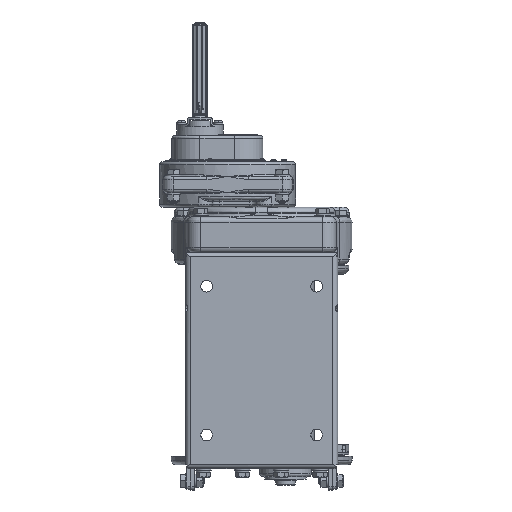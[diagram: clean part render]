
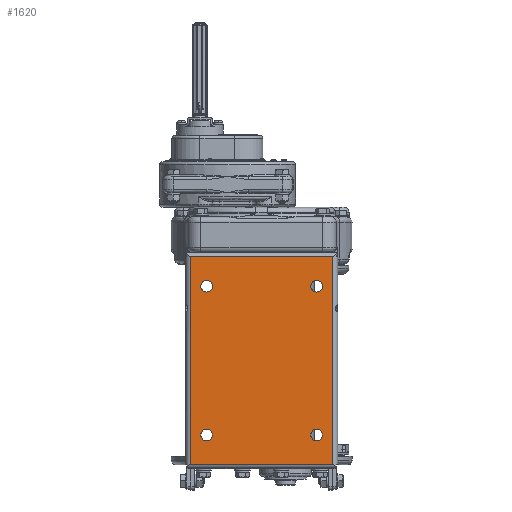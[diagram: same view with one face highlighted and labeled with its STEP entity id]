
A CAD part, front view. The second image highlights one B-rep face of the part: STEP entity #1620.
In plain terms, the highlighted planar face has unit normal (0, -1, 0).
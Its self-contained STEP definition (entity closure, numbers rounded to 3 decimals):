
#1620=ADVANCED_FACE('',(#18517,#18518,#18519,#18520,#18521),#18516,.F.);
#18516=PLANE('',#49552);
#18517=FACE_OUTER_BOUND('',#49553,.T.);
#18518=FACE_BOUND('',#49554,.T.);
#18519=FACE_BOUND('',#49555,.T.);
#18520=FACE_BOUND('',#49556,.T.);
#18521=FACE_BOUND('',#49557,.T.);
#49549=CARTESIAN_POINT('',(-171.432,-278.182,-566.035));
#49550=DIRECTION('',(0.,1.,0.));
#49551=DIRECTION('',(1.,0.,0.));
#49552=AXIS2_PLACEMENT_3D('',#49549,#49550,#49551);
#49553=EDGE_LOOP('',(#69118,#69119,#69120,#69121));
#49554=EDGE_LOOP('',(#69122,#69123,#69124));
#49555=EDGE_LOOP('',(#69125,#69126,#69127));
#49556=EDGE_LOOP('',(#69128,#69129,#69130));
#49557=EDGE_LOOP('',(#69131,#69132,#69133));
#69118=ORIENTED_EDGE('',*,*,#80922,.T.);
#69119=ORIENTED_EDGE('',*,*,#82506,.T.);
#69120=ORIENTED_EDGE('',*,*,#80909,.F.);
#69121=ORIENTED_EDGE('',*,*,#82507,.F.);
#69122=ORIENTED_EDGE('',*,*,#82508,.T.);
#69123=ORIENTED_EDGE('',*,*,#82509,.T.);
#69124=ORIENTED_EDGE('',*,*,#82510,.T.);
#69125=ORIENTED_EDGE('',*,*,#82511,.T.);
#69126=ORIENTED_EDGE('',*,*,#82512,.T.);
#69127=ORIENTED_EDGE('',*,*,#82513,.T.);
#69128=ORIENTED_EDGE('',*,*,#82514,.T.);
#69129=ORIENTED_EDGE('',*,*,#82515,.T.);
#69130=ORIENTED_EDGE('',*,*,#82516,.T.);
#69131=ORIENTED_EDGE('',*,*,#82517,.T.);
#69132=ORIENTED_EDGE('',*,*,#82518,.T.);
#69133=ORIENTED_EDGE('',*,*,#82519,.T.);
#80909=EDGE_CURVE('',#106956,#106963,#106964,.T.);
#80922=EDGE_CURVE('',#107054,#107047,#107055,.T.);
#82506=EDGE_CURVE('',#107047,#106963,#117541,.T.);
#82507=EDGE_CURVE('',#107054,#106956,#117547,.T.);
#82508=EDGE_CURVE('',#117553,#117554,#117555,.T.);
#82509=EDGE_CURVE('',#117554,#117561,#117562,.T.);
#82510=EDGE_CURVE('',#117561,#117553,#117568,.T.);
#82511=EDGE_CURVE('',#117574,#117575,#117576,.T.);
#82512=EDGE_CURVE('',#117575,#117582,#117583,.T.);
#82513=EDGE_CURVE('',#117582,#117574,#117589,.T.);
#82514=EDGE_CURVE('',#117595,#117596,#117597,.T.);
#82515=EDGE_CURVE('',#117596,#117603,#117604,.T.);
#82516=EDGE_CURVE('',#117603,#117595,#117610,.T.);
#82517=EDGE_CURVE('',#117616,#117617,#117618,.T.);
#82518=EDGE_CURVE('',#117617,#117624,#117625,.T.);
#82519=EDGE_CURVE('',#117624,#117616,#117631,.T.);
#106956=VERTEX_POINT('',#155304);
#106963=VERTEX_POINT('',#155309);
#106964=LINE('',#155310,#155311);
#107047=VERTEX_POINT('',#155406);
#107054=VERTEX_POINT('',#155411);
#107055=LINE('',#155412,#155413);
#117541=LINE('',#163503,#163504);
#117547=LINE('',#163506,#163507);
#117553=VERTEX_POINT('',#163509);
#117554=VERTEX_POINT('',#163510);
#117555=CIRCLE('',#163514,9.);
#117561=VERTEX_POINT('',#163515);
#117562=CIRCLE('',#163519,9.);
#117568=CIRCLE('',#163523,9.);
#117574=VERTEX_POINT('',#163524);
#117575=VERTEX_POINT('',#163525);
#117576=CIRCLE('',#163529,9.);
#117582=VERTEX_POINT('',#163530);
#117583=CIRCLE('',#163534,9.);
#117589=CIRCLE('',#163538,9.);
#117595=VERTEX_POINT('',#163539);
#117596=VERTEX_POINT('',#163540);
#117597=CIRCLE('',#163544,9.);
#117603=VERTEX_POINT('',#163545);
#117604=CIRCLE('',#163549,9.);
#117610=CIRCLE('',#163553,9.);
#117616=VERTEX_POINT('',#163554);
#117617=VERTEX_POINT('',#163555);
#117618=CIRCLE('',#163559,9.);
#117624=VERTEX_POINT('',#163560);
#117625=CIRCLE('',#163564,9.);
#117631=CIRCLE('',#163568,9.);
#155304=CARTESIAN_POINT('',(-161.432,-278.182,-898.035));
#155309=CARTESIAN_POINT('',(-161.432,-278.182,-576.035));
#155310=CARTESIAN_POINT('',(-161.432,-278.182,-898.035));
#155311=VECTOR('',#155312,322.);
#155312=DIRECTION('',(0.,0.,1.));
#155406=CARTESIAN_POINT('',(57.568,-278.182,-576.035));
#155411=CARTESIAN_POINT('',(57.568,-278.182,-898.035));
#155412=CARTESIAN_POINT('',(57.568,-278.182,-898.035));
#155413=VECTOR('',#155414,322.);
#155414=DIRECTION('',(0.,0.,1.));
#163503=CARTESIAN_POINT('',(57.568,-278.182,-576.035));
#163504=VECTOR('',#163505,219.);
#163505=DIRECTION('',(-1.,0.,0.));
#163506=CARTESIAN_POINT('',(57.568,-278.182,-898.035));
#163507=VECTOR('',#163508,219.);
#163508=DIRECTION('',(-1.,0.,0.));
#163509=CARTESIAN_POINT('',(42.068,-278.182,-852.035));
#163510=CARTESIAN_POINT('',(33.068,-278.182,-861.035));
#163511=CARTESIAN_POINT('',(33.068,-278.182,-852.035));
#163512=DIRECTION('',(0.,1.,0.));
#163513=DIRECTION('',(1.,0.,0.));
#163514=AXIS2_PLACEMENT_3D('',#163511,#163512,#163513);
#163515=CARTESIAN_POINT('',(33.067,-278.182,-843.035));
#163516=CARTESIAN_POINT('',(33.068,-278.182,-852.035));
#163517=DIRECTION('',(0.,1.,0.));
#163518=DIRECTION('',(1.,0.,0.));
#163519=AXIS2_PLACEMENT_3D('',#163516,#163517,#163518);
#163520=CARTESIAN_POINT('',(33.068,-278.182,-852.035));
#163521=DIRECTION('',(0.,1.,0.));
#163522=DIRECTION('',(1.,0.,0.));
#163523=AXIS2_PLACEMENT_3D('',#163520,#163521,#163522);
#163524=CARTESIAN_POINT('',(-127.932,-278.182,-852.035));
#163525=CARTESIAN_POINT('',(-136.932,-278.182,-861.035));
#163526=CARTESIAN_POINT('',(-136.932,-278.182,-852.035));
#163527=DIRECTION('',(0.,1.,0.));
#163528=DIRECTION('',(1.,0.,0.));
#163529=AXIS2_PLACEMENT_3D('',#163526,#163527,#163528);
#163530=CARTESIAN_POINT('',(-136.933,-278.182,-843.035));
#163531=CARTESIAN_POINT('',(-136.932,-278.182,-852.035));
#163532=DIRECTION('',(0.,1.,0.));
#163533=DIRECTION('',(1.,0.,0.));
#163534=AXIS2_PLACEMENT_3D('',#163531,#163532,#163533);
#163535=CARTESIAN_POINT('',(-136.932,-278.182,-852.035));
#163536=DIRECTION('',(0.,1.,0.));
#163537=DIRECTION('',(1.,0.,0.));
#163538=AXIS2_PLACEMENT_3D('',#163535,#163536,#163537);
#163539=CARTESIAN_POINT('',(-127.932,-278.182,-622.035));
#163540=CARTESIAN_POINT('',(-136.932,-278.182,-631.035));
#163541=CARTESIAN_POINT('',(-136.932,-278.182,-622.035));
#163542=DIRECTION('',(0.,1.,0.));
#163543=DIRECTION('',(1.,0.,0.));
#163544=AXIS2_PLACEMENT_3D('',#163541,#163542,#163543);
#163545=CARTESIAN_POINT('',(-136.933,-278.182,-613.035));
#163546=CARTESIAN_POINT('',(-136.932,-278.182,-622.035));
#163547=DIRECTION('',(0.,1.,0.));
#163548=DIRECTION('',(1.,0.,0.));
#163549=AXIS2_PLACEMENT_3D('',#163546,#163547,#163548);
#163550=CARTESIAN_POINT('',(-136.932,-278.182,-622.035));
#163551=DIRECTION('',(0.,1.,0.));
#163552=DIRECTION('',(1.,0.,0.));
#163553=AXIS2_PLACEMENT_3D('',#163550,#163551,#163552);
#163554=CARTESIAN_POINT('',(42.068,-278.182,-622.035));
#163555=CARTESIAN_POINT('',(33.068,-278.182,-631.035));
#163556=CARTESIAN_POINT('',(33.068,-278.182,-622.035));
#163557=DIRECTION('',(0.,1.,0.));
#163558=DIRECTION('',(1.,0.,0.));
#163559=AXIS2_PLACEMENT_3D('',#163556,#163557,#163558);
#163560=CARTESIAN_POINT('',(33.067,-278.182,-613.035));
#163561=CARTESIAN_POINT('',(33.068,-278.182,-622.035));
#163562=DIRECTION('',(0.,1.,0.));
#163563=DIRECTION('',(1.,0.,0.));
#163564=AXIS2_PLACEMENT_3D('',#163561,#163562,#163563);
#163565=CARTESIAN_POINT('',(33.068,-278.182,-622.035));
#163566=DIRECTION('',(0.,1.,0.));
#163567=DIRECTION('',(1.,0.,0.));
#163568=AXIS2_PLACEMENT_3D('',#163565,#163566,#163567);
